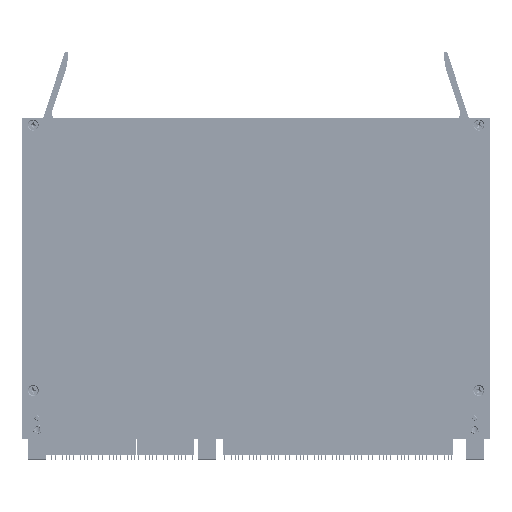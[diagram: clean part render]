
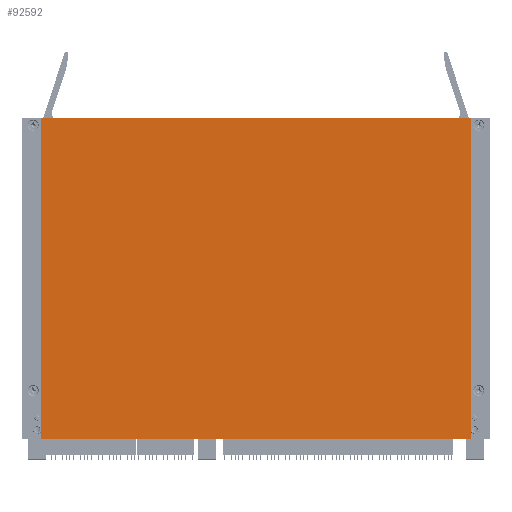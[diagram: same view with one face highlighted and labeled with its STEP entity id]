
A CAD part, left-side view. The second image highlights one B-rep face of the part: STEP entity #92592.
In plain terms, the highlighted planar face has unit normal (-1, 0, 0) as drawn and (0, 1, 0) by its records, which use the part's own axes.
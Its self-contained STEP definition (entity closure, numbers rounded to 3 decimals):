
#1364 = VECTOR ( 'NONE', #181559, 1000. ) ;
#1863 = LINE ( 'NONE', #182413, #1364 ) ;
#7158 = DIRECTION ( 'NONE',  ( 0., -1., 0. ) ) ;
#15255 = CARTESIAN_POINT ( 'NONE',  ( 107.213, 2.794, 160. ) ) ;
#17220 = EDGE_LOOP ( 'NONE', ( #75987, #60368, #191946, #180700 ) ) ;
#26113 = EDGE_CURVE ( 'NONE', #32661, #65133, #140621, .T. ) ;
#32661 = VERTEX_POINT ( 'NONE', #182918 ) ;
#60031 = CARTESIAN_POINT ( 'NONE',  ( -107.213, 2.794, 160. ) ) ;
#60368 = ORIENTED_EDGE ( 'NONE', *, *, #26113, .F. ) ;
#65133 = VERTEX_POINT ( 'NONE', #94698 ) ;
#75987 = ORIENTED_EDGE ( 'NONE', *, *, #179088, .T. ) ;
#92592 = ADVANCED_FACE ( 'NONE', ( #242854 ), #106931, .F. ) ;
#94698 = CARTESIAN_POINT ( 'NONE',  ( -107.213, 2.794, 0. ) ) ;
#98634 = EDGE_CURVE ( 'NONE', #110338, #32661, #222516, .T. ) ;
#104682 = DIRECTION ( 'NONE',  ( 0., 0., -1. ) ) ;
#105820 = VECTOR ( 'NONE', #234010, 1000. ) ;
#106931 = PLANE ( 'NONE',  #198129 ) ;
#108060 = LINE ( 'NONE', #213911, #105820 ) ;
#110338 = VERTEX_POINT ( 'NONE', #15255 ) ;
#139034 = VECTOR ( 'NONE', #104682, 1000. ) ;
#140621 = LINE ( 'NONE', #204034, #139034 ) ;
#146962 = DIRECTION ( 'NONE',  ( 0., 0., -1. ) ) ;
#162821 = CARTESIAN_POINT ( 'NONE',  ( 107.213, 2.794, 0. ) ) ;
#163098 = EDGE_CURVE ( 'NONE', #110338, #180570, #1863, .T. ) ;
#179088 = EDGE_CURVE ( 'NONE', #180570, #65133, #108060, .T. ) ;
#179608 = DIRECTION ( 'NONE',  ( -1., 0., 0. ) ) ;
#180570 = VERTEX_POINT ( 'NONE', #162821 ) ;
#180700 = ORIENTED_EDGE ( 'NONE', *, *, #163098, .T. ) ;
#181559 = DIRECTION ( 'NONE',  ( 0., 0., -1. ) ) ;
#182413 = CARTESIAN_POINT ( 'NONE',  ( 107.213, 2.794, 160. ) ) ;
#182918 = CARTESIAN_POINT ( 'NONE',  ( -107.213, 2.794, 160. ) ) ;
#191946 = ORIENTED_EDGE ( 'NONE', *, *, #98634, .F. ) ;
#198129 = AXIS2_PLACEMENT_3D ( 'NONE', #246352, #7158, #146962 ) ;
#204034 = CARTESIAN_POINT ( 'NONE',  ( -107.213, 2.794, 160. ) ) ;
#213911 = CARTESIAN_POINT ( 'NONE',  ( -107.213, 2.794, 0. ) ) ;
#222516 = LINE ( 'NONE', #60031, #225036 ) ;
#225036 = VECTOR ( 'NONE', #179608, 1000. ) ;
#234010 = DIRECTION ( 'NONE',  ( -1., 0., 0. ) ) ;
#242854 = FACE_OUTER_BOUND ( 'NONE', #17220, .T. ) ;
#246352 = CARTESIAN_POINT ( 'NONE',  ( -107.213, 2.794, 160. ) ) ;
